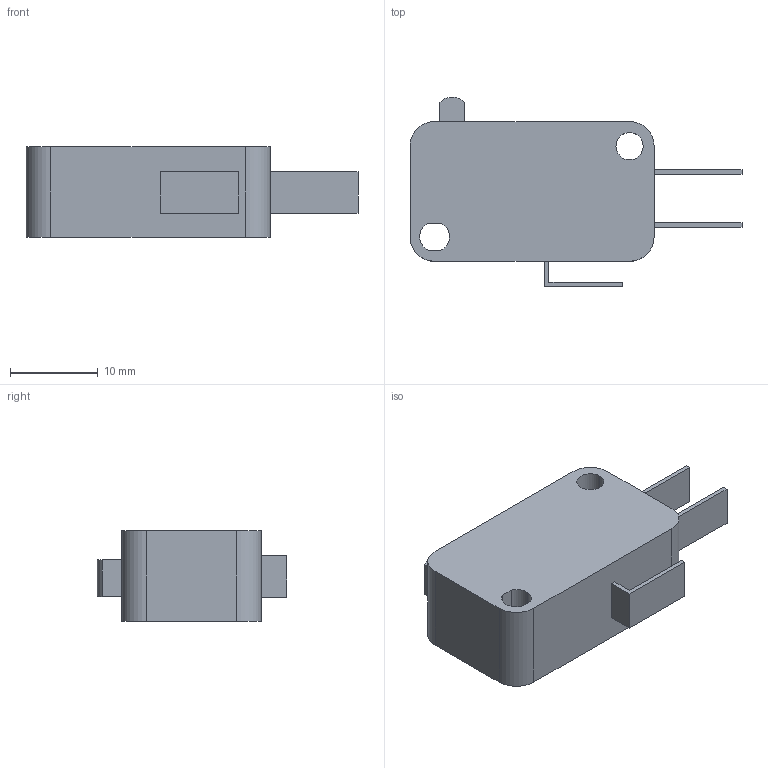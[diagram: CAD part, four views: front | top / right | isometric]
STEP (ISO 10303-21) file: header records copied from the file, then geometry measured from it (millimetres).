
FILE_DESCRIPTION (( 'STEP AP203' ), '1' );
FILE_NAME ('V_10_1A5.step', '2011-02-19T19:14:46', ( 'OSMC1.0 ' ), ( ' ' ), 'SwSTEP 2.0', 'SolidWorks 2002025', '' );
FILE_SCHEMA (( 'CONFIG_CONTROL_DESIGN' ));
Length unit declared in the file: millimetre
Products named in the file (3): V_10_1A5; V_10_1A5_BASE; V_10_1A5_ACTUATOR
Assembly tree (2 placements, depth 2):
  V_10_1A5
    V_10_1A5_ACTUATOR
    V_10_1A5_BASE
Bounding box: 37.8 x 21.59 x 10.3 mm (x, y, z)
Volume: 4406.2 mm3; surface area: 2324.1 mm2
Topology: 2 solids, 2 shells, 45 faces, 111 edges, 74 vertices
Faces by surface type: plane 35, cylinder 10
Entity records: 1638 total; most frequent: CARTESIAN_POINT 235, DIRECTION 231, ORIENTED_EDGE 222, EDGE_CURVE 111, LINE 91, VECTOR 91, VERTEX_POINT 74, AXIS2_PLACEMENT_3D 70
